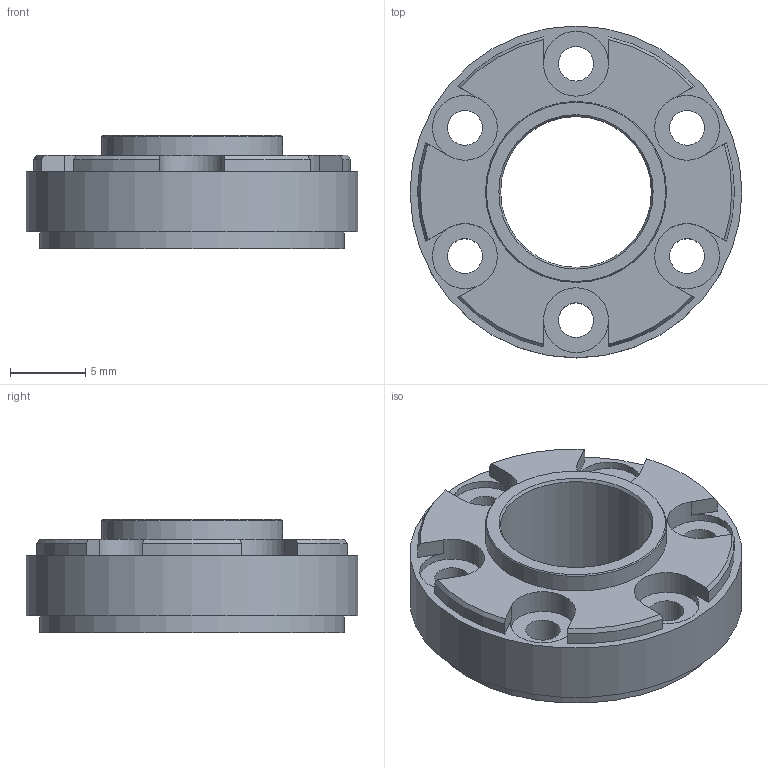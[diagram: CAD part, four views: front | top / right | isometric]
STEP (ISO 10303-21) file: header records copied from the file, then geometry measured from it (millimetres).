
FILE_DESCRIPTION(/* description */ (''),/* implementation_level */ '2;1');
FILE_NAME(/* name */ '22-GPT_flange_c.stp',/* time_stamp */ '2019-07-23T09:11:11+02:00',/* author */ ('DR. FRITZ FAULHABER GmbH & Co. KG'),/* organization */ ('DR. FRITZ FAULHABER GmbH & Co. KG'),/* preprocessor_version */ 'ST-DEVELOPER v16.7',/* originating_system */ 'SIEMENS PLM Software NX 12.0',/* authorisation */ '');
FILE_SCHEMA (('AUTOMOTIVE_DESIGN { 1 0 10303 214 3 1 1 1 }'));
Length unit declared in the file: millimetre
Products named in the file (1): F0011307300-B-416.4923.05
Bounding box: 22 x 22 x 7.5 mm (x, y, z)
Volume: 1549.3 mm3; surface area: 1523.9 mm2
Topology: 1 solids, 1 shells, 54 faces, 151 edges, 102 vertices
Faces by surface type: plane 23, cylinder 22, cone 9
Full cylindrical faces by diameter (mm): 2.3 x6, 4.3 x6, 10 x1, 12 x1, 20.2 x1, 22 x1
Entity records: 1618 total; most frequent: CARTESIAN_POINT 299, DIRECTION 276, ORIENTED_EDGE 238, EDGE_CURVE 119, AXIS2_PLACEMENT_3D 114, EDGE_LOOP 90, VERTEX_POINT 89, FACE_BOUND 66
